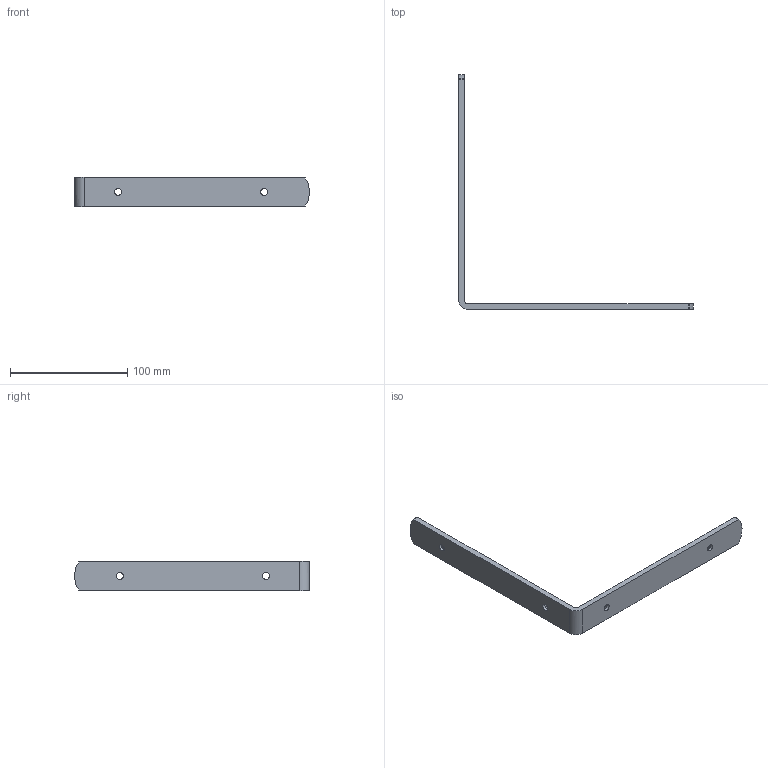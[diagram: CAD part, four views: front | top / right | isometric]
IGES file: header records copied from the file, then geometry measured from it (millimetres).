
Global section: file name: DR_S-AGS200-200; native system: Autodesk Inventor 2015; preprocessor: unknown; author: Administrator; date: 20171012.155527; units: millimetre
Bounding box: 199.99 x 199.99 x 25 mm (x, y, z)
Volume: 46055.1 mm3; surface area: 23529.5 mm2
Topology: 1 solids, 1 shells, 22 faces, 64 edges, 44 vertices
Faces by surface type: bspline 22
